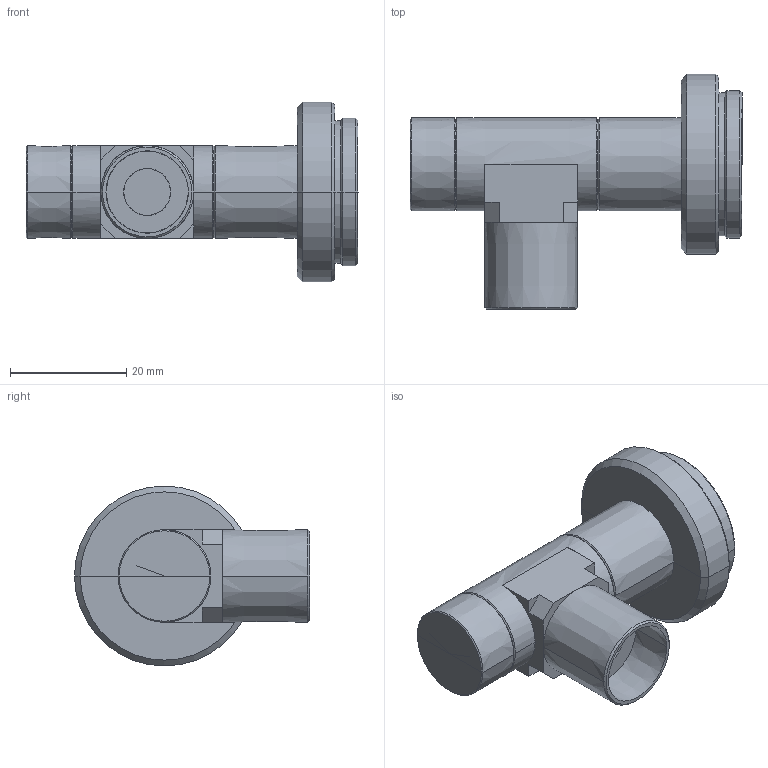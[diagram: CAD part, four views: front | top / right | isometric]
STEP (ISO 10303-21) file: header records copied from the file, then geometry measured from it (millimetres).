
FILE_DESCRIPTION (( 'STEP AP203' ), '1' );
FILE_NAME ('VS-TC3-40CO-LD.STEP', '2018-12-11T08:05:41', ( '' ), ( '' ), 'SwSTEP 2.0', 'SolidWorks 2018', '' );
FILE_SCHEMA (( 'CONFIG_CONTROL_DESIGN' ));
Length unit declared in the file: millimetre
Products named in the file (1): VS-TC3-40CO-LD
Bounding box: 57.2 x 40.5 x 31 mm (x, y, z)
Volume: 18561.1 mm3; surface area: 6297 mm2
Topology: 1 solids, 1 shells, 66 faces, 151 edges, 86 vertices
Faces by surface type: cone 40, plane 22, cylinder 4
Entity records: 1878 total; most frequent: CARTESIAN_POINT 354, DIRECTION 311, ORIENTED_EDGE 294, EDGE_CURVE 147, AXIS2_PLACEMENT_3D 113, VERTEX_POINT 86, LINE 85, VECTOR 85
